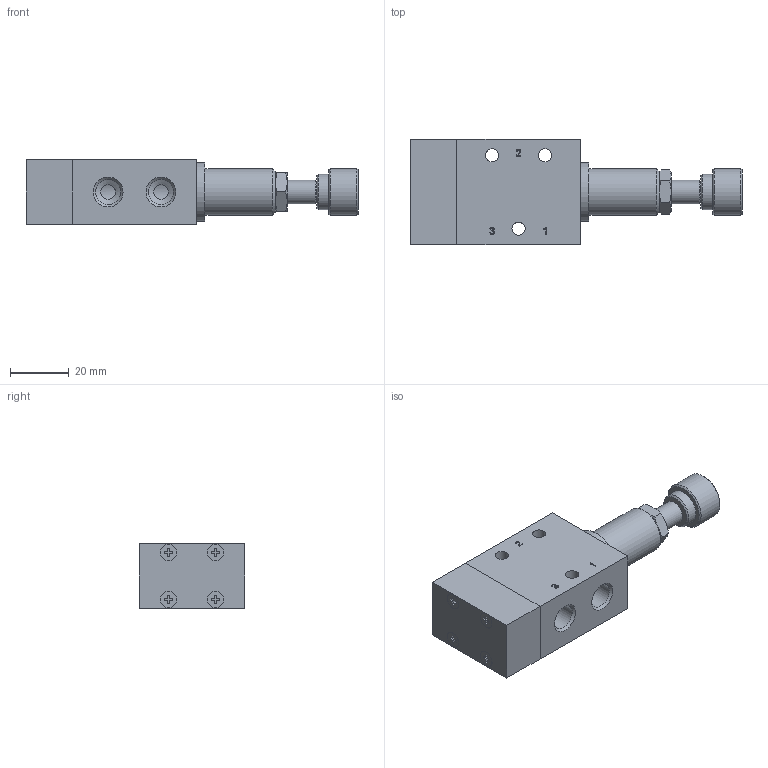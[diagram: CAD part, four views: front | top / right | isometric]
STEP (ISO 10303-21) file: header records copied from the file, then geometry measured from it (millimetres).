
FILE_DESCRIPTION(/* description */ ('Unknown','CAx-IF Rec.Pracs.---Representation and Presentation of Product Manufacturing Information (PMI)---4.0---2014-10-13','CAx-IF Rec.Pracs.---3D Tessellated Geometry---0.4---2014-09-14','2;1'),/* implementation_level */ '2;1');
FILE_NAME(/* name */ 'GZ-P 311 501 SR',/* time_stamp */ '2018-11-15T12:35:01+01:00',/* author */ ('Unknown'),/* organization */ ('Unknown'),/* preprocessor_version */ 'ST-DEVELOPER v16.7',/* originating_system */ 'DEX',/* authorisation */ $);
FILE_SCHEMA (('AP242_MANAGED_MODEL_BASED_3D_ENGINEERING_MIM_LF { 1 0 10303 442 20130219 1 4 }'));
Length unit declared in the file: millimetre
Products named in the file (2): P 311 501 SR
Assembly tree (1 placements, depth 2):
  P 311 501 SR
    P 311 501 SR
Bounding box: 113.15 x 36 x 22 mm (x, y, z)
Volume: 45802.4 mm3; surface area: 19821.6 mm2
Topology: 7 solids, 7 shells, 267 faces, 667 edges, 438 vertices
Faces by surface type: plane 124, cylinder 54, cone 49, bspline 39, torus 1
Full cylindrical faces by diameter (mm): 2.459 x8, 4 x1, 4.5 x3, 5 x3, 5.6 x4, 6 x1, 6.05 x1, 6.5 x1, 6.8 x1, 6.917 x2, 8 x2, 8.566 x8, 9 x2, 10 x2, 12 x2, 12.06 x1, 13.8 x1, 14 x1, 16 x2, 20 x1
Entity records: 9618 total; most frequent: CARTESIAN_POINT 2269, ORIENTED_EDGE 1066, DIRECTION 1021, EDGE_CURVE 533, FACE_BOUND 401, EDGE_LOOP 396, VERTEX_POINT 394, AXIS2_PLACEMENT_3D 366
